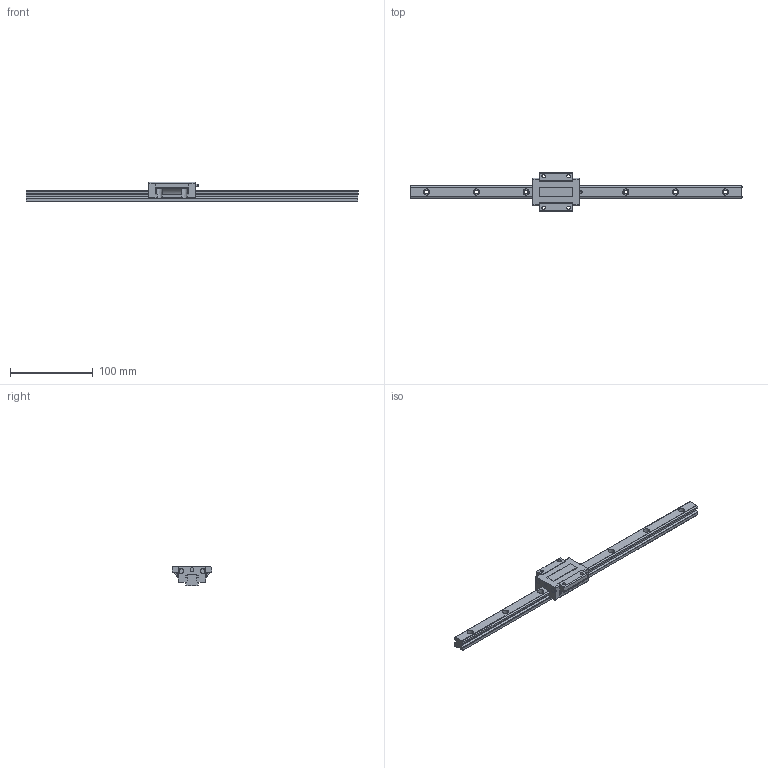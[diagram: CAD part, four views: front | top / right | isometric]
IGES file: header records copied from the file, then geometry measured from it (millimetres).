
Global section: file name: No Iges File Name specified; native system: AutoDesk Inventor R11.0; preprocessor: AutoDesk Inventor Iges Exporter R11.0; author: No Author specified; organization: No Organization specified; date: 20121213.111430; units: millimetre
Bounding box: 400 x 47 x 24 mm (x, y, z)
Surface area: 35364.7 mm2 (no closed solid volume)
Topology: 0 solids, 0 shells, 193 faces, 1378 edges, 1374 vertices
Faces by surface type: bspline 193
